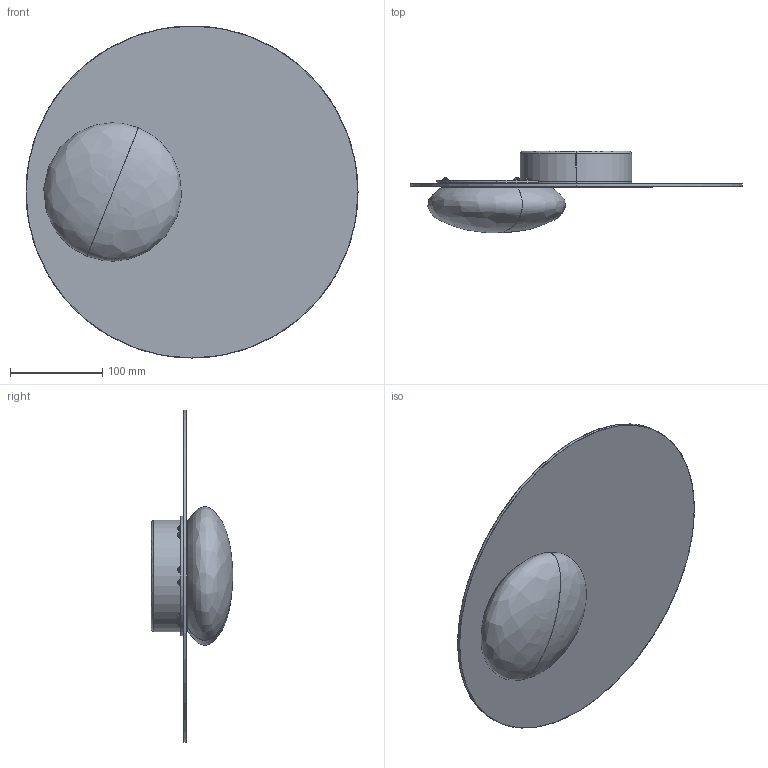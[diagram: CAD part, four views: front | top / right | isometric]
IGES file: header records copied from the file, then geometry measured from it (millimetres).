
Start section: SolidWorks IGES file using analytic representation for surfaces
Global section: file name: D:\OneDrive\Projects\AXO069 KWIC\DRAW\3D\STEP-IGES\KWIC_Ceiling_360.IGS; native system: SolidWorks 2019; preprocessor: SolidWorks 2019; author: tecnico8; date: 190725.152734; units: millimetre
Bounding box: 360 x 88.5 x 360 mm (x, y, z)
Surface area: 356362.3 mm2 (no closed solid volume)
Topology: 0 solids, 0 shells, 374 faces, 6896 edges, 6894 vertices
Faces by surface type: revolution 271, bspline 103
